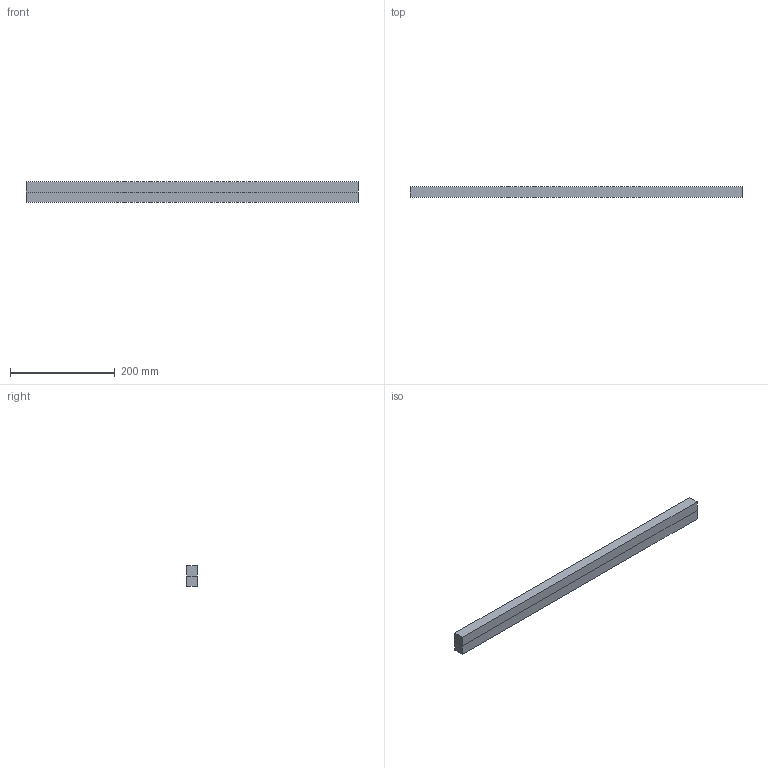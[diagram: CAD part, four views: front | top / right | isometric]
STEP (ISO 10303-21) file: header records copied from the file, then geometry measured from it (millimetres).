
FILE_DESCRIPTION(('Open CASCADE Model'),'2;1');
FILE_NAME('Open CASCADE Shape Model','2025-02-21T15:43:40',('Author'),( 'Open CASCADE'),'Open CASCADE STEP processor 7.8','Open CASCADE 7.8' ,'Unknown');
FILE_SCHEMA(('AUTOMOTIVE_DESIGN { 1 0 10303 214 1 1 1 1 }'));
Length unit declared in the file: millimetre
Products named in the file (2): Compound1; Solid1
Assembly tree (2 placements, depth 2):
  Compound1
    Solid1  x2
Bounding box: 634 x 20 x 40 mm (x, y, z)
Volume: 507200 mm3; surface area: 103040 mm2
Topology: 2 solids, 2 shells, 12 faces, 24 edges, 16 vertices
Faces by surface type: plane 12
Entity records: 192 total; most frequent: DIRECTION 30, CARTESIAN_POINT 29, ORIENTED_EDGE 24, EDGE_CURVE 12, LINE 12, VECTOR 12, AXIS2_PLACEMENT_3D 9, VERTEX_POINT 8
